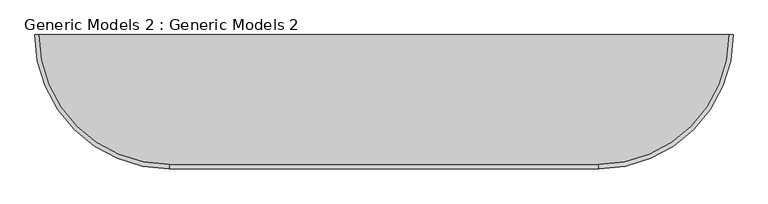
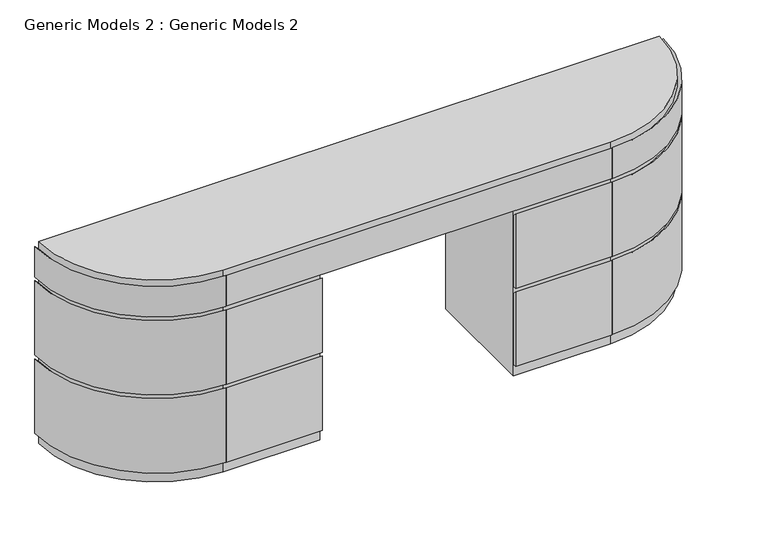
"""IFC4 building model written with IfcOpenShell, lengths in millimetres: proxy geometry, Generic Models 2 : Generic Models 2."""

from ifc_helpers import new_model, si_unit, frame, origin, place, context, project, spatial, polyline, circle_curve, outline, extrude, source, transform, mapped, element, save
from ifc_brep_helpers import plane_surface, cylinder_surface, revolved_surface, advanced_brep


def generic_models_2_generic_models_2_17f05277(model_context):
    return source(origin(), model_context, "Body", "SolidModel", [
        advanced_brep(
        [(2501.8449565, -6549.4040425, 0.0), (2901.8449565, -6549.4040425, 0.0), (2901.8449565, -6549.4040425, 734.0), (3701.8449565, -6549.4040425, 734.0), (3701.8449565, -6549.4040425, 0.0), (4101.8449565, -6549.4040425, 0.0), (4101.8449565, -6549.4040425, 884.0), (2501.8449565, -6549.4040425, 884.0), (2901.8449565, -6065.4040425, 0.0), (2901.8449565, -6065.4040425, 734.0), (3701.8449565, -6065.4040425, 734.0), (3701.8449565, -6065.4040425, 0.0), (2017.8449565, -6065.4040425, 884.0), (4585.8449565, -6065.4040425, 884.0), (2017.8449565, -6065.4040425, 0.0), (4585.8449565, -6065.4040425, 0.0)],
        [
            (0, 1),
            (1, 2),
            (2, 3),
            (3, 4),
            (4, 5),
            (5, 6),
            (6, 7),
            (7, 0),
            (1, 8),
            (8, 9),
            (9, 2),
            (3, 10),
            (10, 11),
            (11, 4),
            (9, 10),
            (12, 7, circle_curve(frame((2501.8449565, -6065.4040425, 884.0), z_axis=(0.0, 0.0, 1.0), x_axis=(1.0, 0.0, 0.0)), 484.0)),
            (6, 13, circle_curve(frame((4101.8449565, -6065.4040425, 884.0), z_axis=(0.0, 0.0, 1.0), x_axis=(-1.0, 0.0, 0.0)), 484.0)),
            (13, 12),
            (0, 14, circle_curve(frame((2501.8449565, -6065.4040425, 0.0), z_axis=(0.0, 0.0, -1.0), x_axis=(1.0, 0.0, 0.0)), 484.0)),
            (14, 8),
            (15, 5, circle_curve(frame((4101.8449565, -6065.4040425, 0.0), z_axis=(0.0, 0.0, -1.0), x_axis=(-1.0, 0.0, 0.0)), 484.0)),
            (11, 15),
            (13, 15),
            (14, 12),
        ],
        [
            plane_surface(frame((2501.8449565, -6549.4040425, 0.0), z_axis=(0.0, -1.0, 0.0), x_axis=(0.0, 0.0, -1.0))),
            plane_surface(frame((2901.8449565, -6549.4040425, 0.0), z_axis=(1.0, 0.0, 0.0), x_axis=(0.0, 1.0, 0.0))),
            plane_surface(frame((3701.8449565, -6549.4040425, 734.0), z_axis=(-1.0, 0.0, 0.0), x_axis=(0.0, 1.0, 0.0))),
            plane_surface(frame((2901.8449565, -6549.4040425, 734.0), z_axis=(0.0, 0.0, -1.0), x_axis=(0.0, 1.0, 0.0))),
            plane_surface(frame((2001.8449565, -6065.4040425, 884.0), z_axis=(0.0, 0.0, 1.0), x_axis=(-1.0, 0.0, 0.0))),
            plane_surface(frame((2001.8449565, -6065.4040425, 0.0), z_axis=(0.0, 0.0, -1.0), x_axis=(1.0, 0.0, 0.0))),
            plane_surface(frame((2501.8449565, -6065.4040425, 884.0), z_axis=(0.0, 1.0, 0.0), x_axis=(0.0, 0.0, -1.0))),
            cylinder_surface(frame((2501.8449565, -6065.4040425, 0.0), z_axis=(0.0, 0.0, 1.0), x_axis=(1.0, 0.0, 0.0)), 484.0),
            cylinder_surface(frame((4101.8449565, -6065.4040425, 0.0), z_axis=(0.0, 0.0, 1.0), x_axis=(-1.0, 0.0, 0.0)), 484.0),
        ],
        [
            (0, [[1, 2, 3, 4, 5, 6, 7, 8]]),
            (1, [[-2, 9, 10, 11]]),
            (2, [[-4, 12, 13, 14]]),
            (3, [[-3, -11, 15, -12]]),
            (4, [[16, -7, 17, 18]]),
            (5, [[19, 20, -9, -1]]),
            (5, [[21, -5, -14, 22]]),
            (6, [[-18, 23, -22, -13, -15, -10, -20, 24]]),
            (7, [[-16, -24, -19, -8]]),
            (8, [[-17, -6, -21, -23]]),
        ],
    ),
        extrude(outline(polyline([(-6549.4040425, 360.0), (-6549.4040425, 50.0), (-6565.4040425, 50.0), (-6565.4040425, 376.0), (-6549.4040425, 360.0)])), frame((3701.8449565, 0.0, 0.0), z_axis=(1.0, 0.0, 0.0), x_axis=(0.0, 1.0, 0.0)), (0.0, 0.0, 1.0), 398.0),
        extrude(outline(polyline([(-6549.4040425, 392.0), (-6565.4040425, 392.0), (-6565.4040425, 718.0), (-6549.4040425, 702.0), (-6549.4040425, 392.0)])), frame((3701.8449565, 0.0, 0.0), z_axis=(1.0, 0.0, 0.0), x_axis=(0.0, 1.0, 0.0)), (0.0, 0.0, 1.0), 398.0),
        extrude(outline(polyline([(-6549.4040425, 360.0), (-6549.4040425, 50.0), (-6565.4040425, 50.0), (-6565.4040425, 376.0), (-6549.4040425, 360.0)])), frame((2503.8449565, 0.0, 0.0), z_axis=(1.0, 0.0, 0.0), x_axis=(0.0, 1.0, 0.0)), (0.0, 0.0, 1.0), 398.0),
        extrude(outline(polyline([(-6549.4040425, 392.0), (-6565.4040425, 392.0), (-6565.4040425, 718.0), (-6549.4040425, 702.0), (-6549.4040425, 392.0)])), frame((2503.8449565, 0.0, 0.0), z_axis=(1.0, 0.0, 0.0), x_axis=(0.0, 1.0, 0.0)), (0.0, 0.0, 1.0), 398.0),
        advanced_brep(
        [(2001.8449565, -6065.4040425, 50.0), (2001.8449565, -6065.4040425, 376.0), (2017.8449565, -6065.4040425, 360.0), (2017.8449565, -6065.4040425, 50.0), (2501.8449565, -6565.4040425, 50.0), (2501.8449565, -6549.4040425, 50.0), (2501.8449565, -6549.4040425, 360.0), (2501.8449565, -6565.4040425, 376.0)],
        [
            (0, 1),
            (1, 2),
            (2, 3),
            (3, 0),
            (4, 5),
            (5, 6),
            (6, 7),
            (7, 4),
            (7, 1, circle_curve(frame((2501.8449565, -6065.4040425, 376.0), z_axis=(0.0, 0.0, -1.0), x_axis=(-1.0, 0.0, 0.0)), 500.0)),
            (0, 4, circle_curve(frame((2501.8449565, -6065.4040425, 50.0), z_axis=(0.0, 0.0, 1.0), x_axis=(-1.0, 0.0, 0.0)), 500.0)),
            (5, 3, circle_curve(frame((2501.8449565, -6065.4040425, 50.0), z_axis=(0.0, 0.0, -1.0), x_axis=(-1.0, 0.0, 0.0)), 484.0)),
            (2, 6, circle_curve(frame((2501.8449565, -6065.4040425, 360.0), z_axis=(0.0, 0.0, 1.0), x_axis=(-1.0, 0.0, 0.0)), 484.0)),
        ],
        [
            plane_surface(frame((2017.8449565, -6065.4040425, 0.0), z_axis=(0.0, 1.0, 0.0), x_axis=(0.0, 0.0, -1.0))),
            plane_surface(frame((2501.8449565, -6549.4040425, 0.0), z_axis=(1.0, 0.0, 0.0), x_axis=(0.0, 0.0, -1.0))),
            cylinder_surface(frame((2501.8449565, -6065.4040425, 0.0), z_axis=(0.0, 0.0, 1.0), x_axis=(-1.0, 0.0, 0.0)), 500.0),
            revolved_surface(polyline([(2017.8449565, -6065.4040425, 360.0), (2017.8449565, -6065.4040425, 50.0)]), (2501.8449565, -6065.4040425, 0.0), (0.0, 0.0, 1.0)),
            plane_surface(frame((2501.8449565, -6065.4040425, 50.0), z_axis=(0.0, 0.0, -1.0), x_axis=(-1.0, 0.0, 0.0))),
            revolved_surface(polyline([(2001.8449565, -6065.4040425, 376.0), (2017.8449565, -6065.4040425, 360.0)]), (2501.8449565, -6065.4040425, 0.0), (0.0, 0.0, 1.0)),
        ],
        [
            (0, [[1, 2, 3, 4]]),
            (1, [[5, 6, 7, 8]]),
            (2, [[9, -1, 10, -8]]),
            (3, [[11, -3, 12, -6]]),
            (4, [[-10, -4, -11, -5]]),
            (5, [[-12, -2, -9, -7]]),
        ],
    ),
        advanced_brep(
        [(2001.8449565, -6065.4040425, 392.0), (2001.8449565, -6065.4040425, 718.0), (2017.8449565, -6065.4040425, 702.0), (2017.8449565, -6065.4040425, 392.0), (2501.8449565, -6565.4040425, 392.0), (2501.8449565, -6549.4040425, 392.0), (2501.8449565, -6549.4040425, 702.0), (2501.8449565, -6565.4040425, 718.0)],
        [
            (0, 1),
            (1, 2),
            (2, 3),
            (3, 0),
            (4, 5),
            (5, 6),
            (6, 7),
            (7, 4),
            (7, 1, circle_curve(frame((2501.8449565, -6065.4040425, 718.0), z_axis=(0.0, 0.0, -1.0), x_axis=(-1.0, 0.0, 0.0)), 500.0)),
            (0, 4, circle_curve(frame((2501.8449565, -6065.4040425, 392.0), z_axis=(0.0, 0.0, 1.0), x_axis=(-1.0, 0.0, 0.0)), 500.0)),
            (5, 3, circle_curve(frame((2501.8449565, -6065.4040425, 392.0), z_axis=(0.0, 0.0, -1.0), x_axis=(-1.0, 0.0, 0.0)), 484.0)),
            (2, 6, circle_curve(frame((2501.8449565, -6065.4040425, 702.0), z_axis=(0.0, 0.0, 1.0), x_axis=(-1.0, 0.0, 0.0)), 484.0)),
        ],
        [
            plane_surface(frame((2017.8449565, -6065.4040425, 0.0), z_axis=(0.0, 1.0, 0.0), x_axis=(0.0, 0.0, -1.0))),
            plane_surface(frame((2501.8449565, -6549.4040425, 0.0), z_axis=(1.0, 0.0, 0.0), x_axis=(0.0, 0.0, -1.0))),
            cylinder_surface(frame((2501.8449565, -6065.4040425, 0.0), z_axis=(0.0, 0.0, 1.0), x_axis=(-1.0, 0.0, 0.0)), 500.0),
            revolved_surface(polyline([(2017.8449565, -6065.4040425, 702.0), (2017.8449565, -6065.4040425, 392.0)]), (2501.8449565, -6065.4040425, 0.0), (0.0, 0.0, 1.0)),
            plane_surface(frame((2501.8449565, -6065.4040425, 392.0), z_axis=(0.0, 0.0, -1.0), x_axis=(-1.0, 0.0, 0.0))),
            revolved_surface(polyline([(2001.8449565, -6065.4040425, 718.0), (2017.8449565, -6065.4040425, 702.0)]), (2501.8449565, -6065.4040425, 0.0), (0.0, 0.0, 1.0)),
        ],
        [
            (0, [[1, 2, 3, 4]]),
            (1, [[5, 6, 7, 8]]),
            (2, [[9, -1, 10, -8]]),
            (3, [[11, -3, 12, -6]]),
            (4, [[-10, -4, -11, -5]]),
            (5, [[-12, -2, -9, -7]]),
        ],
    ),
        advanced_brep(
        [(2001.8449565, -6065.4040425, 734.0), (2001.8449565, -6065.4040425, 868.0), (2017.8449565, -6065.4040425, 852.0), (2017.8449565, -6065.4040425, 734.0), (2501.8449565, -6565.4040425, 734.0), (2501.8449565, -6549.4040425, 734.0), (2501.8449565, -6549.4040425, 852.0), (2501.8449565, -6565.4040425, 868.0)],
        [
            (0, 1),
            (1, 2),
            (2, 3),
            (3, 0),
            (4, 5),
            (5, 6),
            (6, 7),
            (7, 4),
            (7, 1, circle_curve(frame((2501.8449565, -6065.4040425, 868.0), z_axis=(0.0, 0.0, -1.0), x_axis=(-1.0, 0.0, 0.0)), 500.0)),
            (0, 4, circle_curve(frame((2501.8449565, -6065.4040425, 734.0), z_axis=(0.0, 0.0, 1.0), x_axis=(-1.0, 0.0, 0.0)), 500.0)),
            (6, 2, circle_curve(frame((2501.8449565, -6065.4040425, 852.0), z_axis=(0.0, 0.0, -1.0), x_axis=(-1.0, 0.0, 0.0)), 484.0)),
            (5, 3, circle_curve(frame((2501.8449565, -6065.4040425, 734.0), z_axis=(0.0, 0.0, -1.0), x_axis=(-1.0, 0.0, 0.0)), 484.0)),
        ],
        [
            plane_surface(frame((2017.8449565, -6065.4040425, 0.0), z_axis=(0.0, 1.0, 0.0), x_axis=(0.0, 0.0, -1.0))),
            plane_surface(frame((2501.8449565, -6549.4040425, 0.0), z_axis=(1.0, 0.0, 0.0), x_axis=(0.0, 0.0, -1.0))),
            cylinder_surface(frame((2501.8449565, -6065.4040425, 0.0), z_axis=(0.0, 0.0, 1.0), x_axis=(-1.0, 0.0, 0.0)), 500.0),
            revolved_surface(polyline([(2001.8449565, -6065.4040425, 868.0), (2017.8449565, -6065.4040425, 852.0)]), (2501.8449565, -6065.4040425, 0.0), (0.0, 0.0, 1.0)),
            revolved_surface(polyline([(2017.8449565, -6065.4040425, 852.0), (2017.8449565, -6065.4040425, 734.0)]), (2501.8449565, -6065.4040425, 0.0), (0.0, 0.0, 1.0)),
            plane_surface(frame((2501.8449565, -6065.4040425, 734.0), z_axis=(0.0, 0.0, -1.0), x_axis=(-1.0, 0.0, 0.0))),
        ],
        [
            (0, [[1, 2, 3, 4]]),
            (1, [[5, 6, 7, 8]]),
            (2, [[9, -1, 10, -8]]),
            (3, [[11, -2, -9, -7]]),
            (4, [[12, -3, -11, -6]]),
            (5, [[-10, -4, -12, -5]]),
        ],
    ),
        advanced_brep(
        [(4101.8449565, -6549.4040425, 392.0), (4101.8449565, -6565.4040425, 392.0), (4101.8449565, -6565.4040425, 718.0), (4101.8449565, -6549.4040425, 702.0), (4585.8449565, -6065.4040425, 392.0), (4585.8449565, -6065.4040425, 702.0), (4601.8449565, -6065.4040425, 718.0), (4601.8449565, -6065.4040425, 392.0)],
        [
            (0, 1),
            (1, 2),
            (2, 3),
            (3, 0),
            (4, 5),
            (5, 6),
            (6, 7),
            (7, 4),
            (7, 1, circle_curve(frame((4101.8449565, -6065.4040425, 392.0), z_axis=(0.0, 0.0, -1.0), x_axis=(0.0, -1.0, 0.0)), 500.0)),
            (0, 4, circle_curve(frame((4101.8449565, -6065.4040425, 392.0), z_axis=(0.0, 0.0, 1.0), x_axis=(0.0, -1.0, 0.0)), 484.0)),
            (3, 5, circle_curve(frame((4101.8449565, -6065.4040425, 702.0), z_axis=(0.0, 0.0, 1.0), x_axis=(0.0, -1.0, 0.0)), 484.0)),
            (6, 2, circle_curve(frame((4101.8449565, -6065.4040425, 718.0), z_axis=(0.0, 0.0, -1.0), x_axis=(0.0, -1.0, 0.0)), 500.0)),
        ],
        [
            plane_surface(frame((4101.8449565, -6549.4040425, 0.0), z_axis=(-1.0, 0.0, 0.0), x_axis=(0.0, 0.0, -1.0))),
            plane_surface(frame((4585.8449565, -6065.4040425, 0.0), z_axis=(0.0, 1.0, 0.0), x_axis=(0.0, 0.0, -1.0))),
            plane_surface(frame((4101.8449565, -6065.4040425, 392.0), z_axis=(0.0, 0.0, -1.0), x_axis=(0.0, -1.0, 0.0))),
            revolved_surface(polyline([(4101.8449565, -6549.4040425, 702.0), (4101.8449565, -6549.4040425, 392.0)]), (4101.8449565, -6065.4040425, 0.0), (0.0, 0.0, 1.0)),
            cylinder_surface(frame((4101.8449565, -6065.4040425, 0.0), z_axis=(0.0, 0.0, 1.0), x_axis=(0.0, -1.0, 0.0)), 500.0),
            revolved_surface(polyline([(4101.8449565, -6565.4040425, 718.0), (4101.8449565, -6549.4040425, 702.0)]), (4101.8449565, -6065.4040425, 0.0), (0.0, 0.0, 1.0)),
        ],
        [
            (0, [[1, 2, 3, 4]]),
            (1, [[5, 6, 7, 8]]),
            (2, [[9, -1, 10, -8]]),
            (3, [[-10, -4, 11, -5]]),
            (4, [[12, -2, -9, -7]]),
            (5, [[-11, -3, -12, -6]]),
        ],
    ),
        advanced_brep(
        [(4101.8449565, -6565.4040425, 50.0), (4101.8449565, -6565.4040425, 376.0), (4101.8449565, -6549.4040425, 360.0), (4101.8449565, -6549.4040425, 50.0), (4601.8449565, -6065.4040425, 50.0), (4585.8449565, -6065.4040425, 50.0), (4585.8449565, -6065.4040425, 360.0), (4601.8449565, -6065.4040425, 376.0)],
        [
            (0, 1),
            (1, 2),
            (2, 3),
            (3, 0),
            (4, 5),
            (5, 6),
            (6, 7),
            (7, 4),
            (5, 3, circle_curve(frame((4101.8449565, -6065.4040425, 50.0), z_axis=(0.0, 0.0, -1.0), x_axis=(0.0, -1.0, 0.0)), 484.0)),
            (2, 6, circle_curve(frame((4101.8449565, -6065.4040425, 360.0), z_axis=(0.0, 0.0, 1.0), x_axis=(0.0, -1.0, 0.0)), 484.0)),
            (4, 0, circle_curve(frame((4101.8449565, -6065.4040425, 50.0), z_axis=(0.0, 0.0, -1.0), x_axis=(0.0, -1.0, 0.0)), 500.0)),
            (7, 1, circle_curve(frame((4101.8449565, -6065.4040425, 376.0), z_axis=(0.0, 0.0, -1.0), x_axis=(0.0, -1.0, 0.0)), 500.0)),
        ],
        [
            plane_surface(frame((4101.8449565, -6549.4040425, 0.0), z_axis=(-1.0, 0.0, 0.0), x_axis=(0.0, 0.0, -1.0))),
            plane_surface(frame((4585.8449565, -6065.4040425, 0.0), z_axis=(0.0, 1.0, 0.0), x_axis=(0.0, 0.0, -1.0))),
            revolved_surface(polyline([(4101.8449565, -6549.4040425, 360.0), (4101.8449565, -6549.4040425, 50.0)]), (4101.8449565, -6065.4040425, 0.0), (0.0, 0.0, 1.0)),
            plane_surface(frame((4101.8449565, -6065.4040425, 50.0), z_axis=(0.0, 0.0, -1.0), x_axis=(0.0, -1.0, 0.0))),
            cylinder_surface(frame((4101.8449565, -6065.4040425, 0.0), z_axis=(0.0, 0.0, 1.0), x_axis=(0.0, -1.0, 0.0)), 500.0),
            revolved_surface(polyline([(4101.8449565, -6565.4040425, 376.0), (4101.8449565, -6549.4040425, 360.0)]), (4101.8449565, -6065.4040425, 0.0), (0.0, 0.0, 1.0)),
        ],
        [
            (0, [[1, 2, 3, 4]]),
            (1, [[5, 6, 7, 8]]),
            (2, [[9, -3, 10, -6]]),
            (3, [[11, -4, -9, -5]]),
            (4, [[12, -1, -11, -8]]),
            (5, [[-10, -2, -12, -7]]),
        ],
    ),
        advanced_brep(
        [(4101.8449565, -6549.4040425, 734.0), (4101.8449565, -6565.4040425, 734.0), (4101.8449565, -6565.4040425, 868.0), (4101.8449565, -6549.4040425, 852.0), (4585.8449565, -6065.4040425, 734.0), (4585.8449565, -6065.4040425, 852.0), (4601.8449565, -6065.4040425, 868.0), (4601.8449565, -6065.4040425, 734.0)],
        [
            (0, 1),
            (1, 2),
            (2, 3),
            (3, 0),
            (4, 5),
            (5, 6),
            (6, 7),
            (7, 4),
            (7, 1, circle_curve(frame((4101.8449565, -6065.4040425, 734.0), z_axis=(0.0, 0.0, -1.0), x_axis=(0.0, -1.0, 0.0)), 500.0)),
            (0, 4, circle_curve(frame((4101.8449565, -6065.4040425, 734.0), z_axis=(0.0, 0.0, 1.0), x_axis=(0.0, -1.0, 0.0)), 484.0)),
            (6, 2, circle_curve(frame((4101.8449565, -6065.4040425, 868.0), z_axis=(0.0, 0.0, -1.0), x_axis=(0.0, -1.0, 0.0)), 500.0)),
            (5, 3, circle_curve(frame((4101.8449565, -6065.4040425, 852.0), z_axis=(0.0, 0.0, -1.0), x_axis=(0.0, -1.0, 0.0)), 484.0)),
        ],
        [
            plane_surface(frame((4101.8449565, -6549.4040425, 0.0), z_axis=(-1.0, 0.0, 0.0), x_axis=(0.0, 0.0, -1.0))),
            plane_surface(frame((4585.8449565, -6065.4040425, 0.0), z_axis=(0.0, 1.0, 0.0), x_axis=(0.0, 0.0, -1.0))),
            plane_surface(frame((4101.8449565, -6065.4040425, 734.0), z_axis=(0.0, 0.0, -1.0), x_axis=(0.0, -1.0, 0.0))),
            cylinder_surface(frame((4101.8449565, -6065.4040425, 0.0), z_axis=(0.0, 0.0, 1.0), x_axis=(0.0, -1.0, 0.0)), 500.0),
            revolved_surface(polyline([(4101.8449565, -6565.4040425, 868.0), (4101.8449565, -6549.4040425, 852.0)]), (4101.8449565, -6065.4040425, 0.0), (0.0, 0.0, 1.0)),
            revolved_surface(polyline([(4101.8449565, -6549.4040425, 852.0), (4101.8449565, -6549.4040425, 734.0)]), (4101.8449565, -6065.4040425, 0.0), (0.0, 0.0, 1.0)),
        ],
        [
            (0, [[1, 2, 3, 4]]),
            (1, [[5, 6, 7, 8]]),
            (2, [[9, -1, 10, -8]]),
            (3, [[11, -2, -9, -7]]),
            (4, [[12, -3, -11, -6]]),
            (5, [[-10, -4, -12, -5]]),
        ],
    ),
        extrude(outline(polyline([(-6549.4040425, 852.0), (-6549.4040425, 734.0), (-6565.4040425, 734.0), (-6565.4040425, 868.0), (-6549.4040425, 852.0)])), frame((2503.8449565, 0.0, 0.0), z_axis=(1.0, 0.0, 0.0), x_axis=(0.0, 1.0, 0.0)), (0.0, 0.0, 1.0), 1596.0),
    ])


if __name__ == "__main__":
    model = new_model("IFC4")
    model_context = context("Model", 3, world=origin())
    ifc_project = project(units=[si_unit("LENGTHUNIT", "METRE", prefix="MILLI")], contexts=[model_context])
    site = spatial("IfcSite", under=ifc_project)
    building = spatial("IfcBuilding", under=site)
    placement = place(None, origin())
    generic_models_2_generic_models_2_shape = generic_models_2_generic_models_2_17f05277(model_context)
    element("IfcBuildingElementProxy", 1, Name="Generic Models 2 : Generic Models 2", ObjectType="Generic Models 2 : Generic Models 2", at=placement, inside=building, context=model_context, shape_type="MappedRepresentation", body=[
        mapped(generic_models_2_generic_models_2_shape, transform((0.0, 0.0, 0.0), x_axis=(1.0, 0.0, 0.0), y_axis=(0.0, 1.0, 0.0), z_axis=(0.0, 0.0, 1.0))),
    ])
    save(model, "model.ifc")
